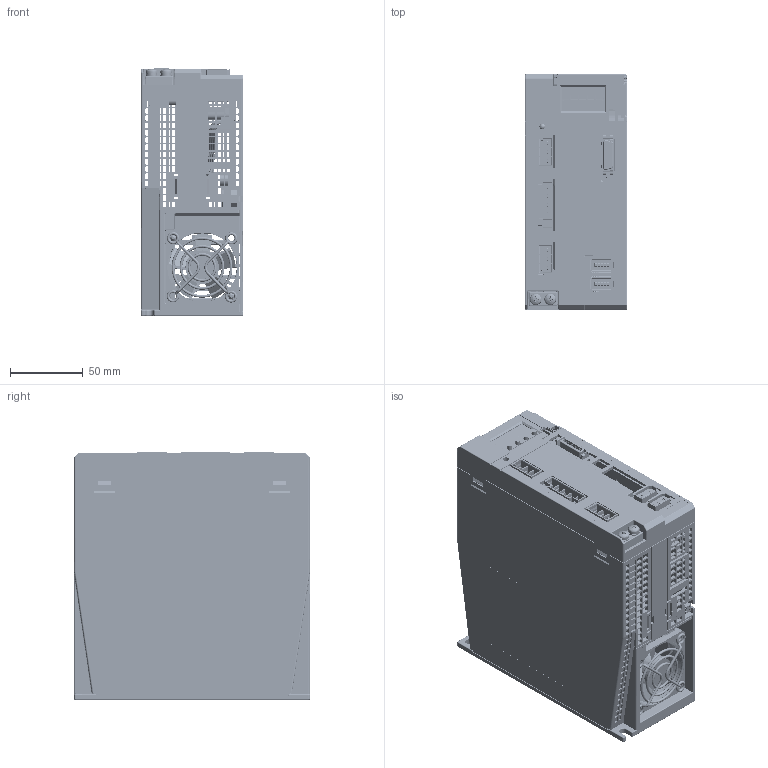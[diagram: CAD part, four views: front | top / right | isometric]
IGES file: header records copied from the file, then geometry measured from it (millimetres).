
Global section: file name: 7HNo Iges File Name specified; native system: AutoDesk Inventor R12.0; preprocessor: AutoDesk Inventor Iges Exporter R12.0; author: No Author specified; organization: No Organization specified; date: 20161022.114013; units: millimetre
Bounding box: 70 x 162 x 170.4 mm (x, y, z)
Surface area: 410728.4 mm2
Topology: 6 solids, 10 shells, 11902 faces, 33976 edges, 22287 vertices
Faces by surface type: plane 9202, revolution 1087, cylinder 861, bspline 533, torus 109, sphere 77, cone 33
Full cylindrical faces by diameter (mm): 0.6 x4, 1.5 x16, 1.9 x4, 2 x2, 3.4 x4, 3.621 x2, 4 x8, 4.33 x1, 4.5 x1, 8 x2, 8.3 x1, 10 x2, 23 x1
